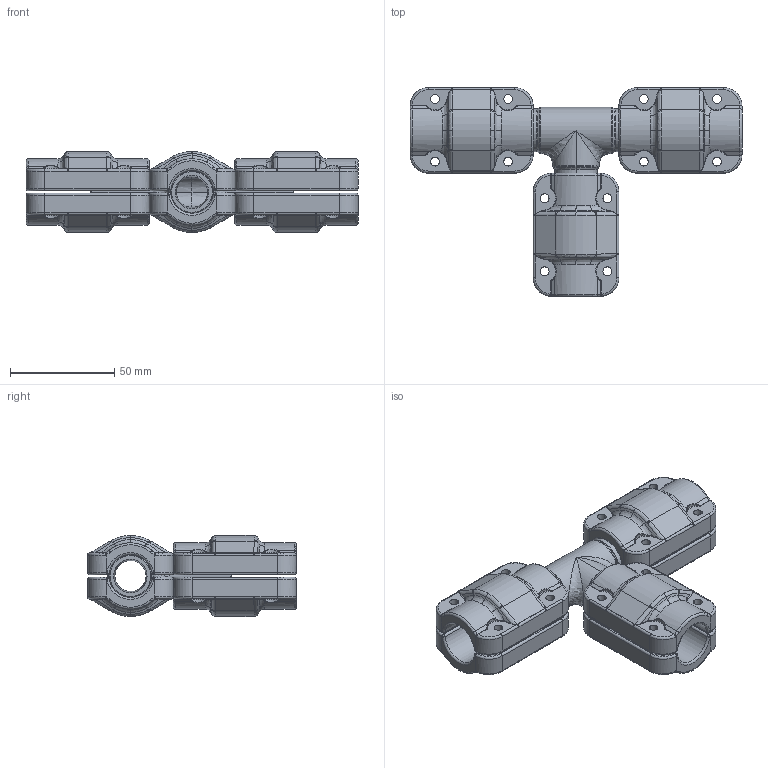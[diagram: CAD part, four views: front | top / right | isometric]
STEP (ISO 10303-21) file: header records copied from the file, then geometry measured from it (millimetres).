
FILE_DESCRIPTION((''),'2;1');
FILE_NAME('2015100599_ASM_11_ASM','2017-05-15T',('Administrator'),(''),'PRO/ENGINEER BY PARAMETRIC TECHNOLOGY CORPORATION, 2009360','PRO/ENGINEER BY PARAMETRIC TECHNOLOGY CORPORATION, 2009360','');
FILE_SCHEMA(('AUTOMOTIVE_DESIGN_CC2 { 1 2 10303 214 -1 1 5 2 }'));
Length unit declared in the file: millimetre
Products named in the file (5): 2015100500_7; 201510020000_38_1; 201510020001_10_1; 2015100200_ASM_1_ASM; 2015100599_ASM_11_ASM
Assembly tree (6 placements, depth 3):
  2015100599_ASM_11_ASM
    2015100500_7
    2015100200_ASM_1_ASM  x3
      201510020000_38_1
      201510020001_10_1
Bounding box: 159 x 100 x 38.8 mm (x, y, z)
Volume: 145807 mm3; surface area: 69406.2 mm2
Topology: 7 solids, 25 shells, 1143 faces, 2764 edges, 1645 vertices
Faces by surface type: bspline 410, cylinder 340, torus 204, plane 117, cone 48, sphere 24
Entity records: 20759 total; most frequent: CARTESIAN_POINT 9035, ORIENTED_EDGE 1998, DIRECTION 1587, EDGE_CURVE 999, AXIS2_PLACEMENT_3D 693, VERTEX_POINT 601, PRESENTATION_STYLE_ASSIGNMENT 494, STYLED_ITEM 494
